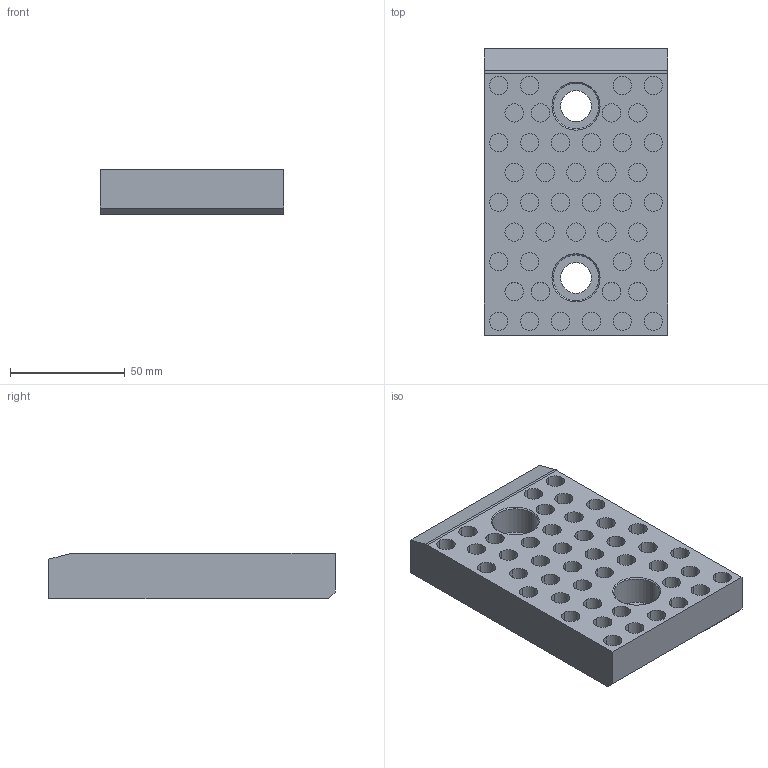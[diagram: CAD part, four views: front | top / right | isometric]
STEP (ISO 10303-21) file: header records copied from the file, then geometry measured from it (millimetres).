
FILE_DESCRIPTION (( 'STEP AP214' ), '1' );
FILE_NAME ('SW224-01-80x125.STEP', '2020-10-14T13:40:23', ( 'August' ), ( '' ), 'SwSTEP 2.0', 'SolidWorks 2018', '' );
FILE_SCHEMA (( 'AUTOMOTIVE_DESIGN' ));
Length unit declared in the file: millimetre
Products named in the file (1): SW224-01-80x125
Bounding box: 80 x 125 x 20 mm (x, y, z)
Volume: 173339.2 mm3; surface area: 36975.2 mm2
Topology: 1 solids, 1 shells, 155 faces, 317 edges, 210 vertices
Faces by surface type: cylinder 97, plane 54, cone 4
Entity records: 4472 total; most frequent: DIRECTION 827, CARTESIAN_POINT 683, ORIENTED_EDGE 634, AXIS2_PLACEMENT_3D 354, EDGE_CURVE 317, VERTEX_POINT 210, EDGE_LOOP 205, CIRCLE 198
